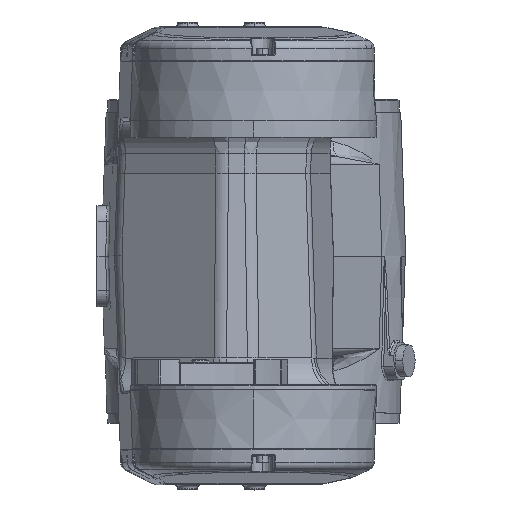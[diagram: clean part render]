
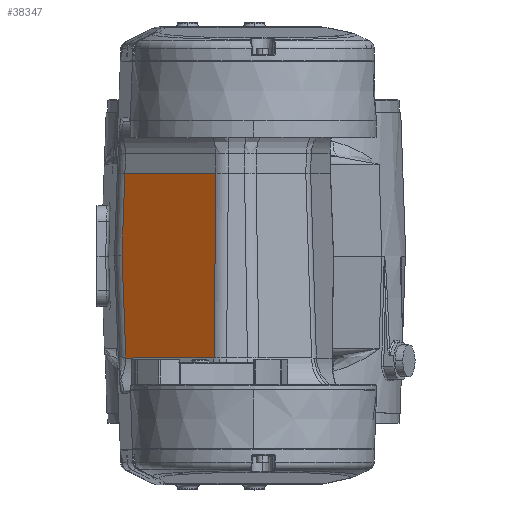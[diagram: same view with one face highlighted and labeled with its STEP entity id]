
A CAD part, top view. The second image highlights one B-rep face of the part: STEP entity #38347.
In plain terms, the highlighted planar face has unit normal (-0.592, 0.035, 0.805).
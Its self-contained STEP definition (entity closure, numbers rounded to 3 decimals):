
#3437 = VECTOR ( 'NONE', #24925, 1000. ) ;
#3449 = ORIENTED_EDGE ( 'NONE', *, *, #22573, .F. ) ;
#3644 = VERTEX_POINT ( 'NONE', #52259 ) ;
#3995 = VERTEX_POINT ( 'NONE', #14991 ) ;
#6156 = FACE_OUTER_BOUND ( 'NONE', #31680, .T. ) ;
#6337 = CARTESIAN_POINT ( 'NONE',  ( -28.084, 0.384, 786.034 ) ) ;
#7073 = DIRECTION ( 'NONE',  ( -0.037, 0.997, -0.071 ) ) ;
#7166 = ORIENTED_EDGE ( 'NONE', *, *, #24168, .F. ) ;
#8759 = CARTESIAN_POINT ( 'NONE',  ( 26.587, -60.698, 828.867 ) ) ;
#12692 = ORIENTED_EDGE ( 'NONE', *, *, #17108, .F. ) ;
#14991 = CARTESIAN_POINT ( 'NONE',  ( 27.702, 49., 824.932 ) ) ;
#15969 = VERTEX_POINT ( 'NONE', #8759 ) ;
#17108 = EDGE_CURVE ( 'NONE', #3644, #3995, #29261, .T. ) ;
#18484 = VECTOR ( 'NONE', #43294, 1000. ) ;
#19661 = CARTESIAN_POINT ( 'NONE',  ( -28.084, 0.384, 786.034 ) ) ;
#20023 = CARTESIAN_POINT ( 'NONE',  ( 30.516, 0., 829.124 ) ) ;
#20335 = CARTESIAN_POINT ( 'NONE',  ( 31.529, 49., 827.745 ) ) ;
#22573 = EDGE_CURVE ( 'NONE', #3995, #15969, #43904, .T. ) ;
#22852 = VECTOR ( 'NONE', #7073, 1000. ) ;
#23355 = VERTEX_POINT ( 'NONE', #19661 ) ;
#24168 = EDGE_CURVE ( 'NONE', #15969, #54474, #37514, .T. ) ;
#24925 = DIRECTION ( 'NONE',  ( 0.806, 0., 0.592 ) ) ;
#25442 = ORIENTED_EDGE ( 'NONE', *, *, #33547, .F. ) ;
#25836 = CARTESIAN_POINT ( 'NONE',  ( -27.98, -2.394, 786.231 ) ) ;
#27059 = LINE ( 'NONE', #25836, #22852 ) ;
#29261 = LINE ( 'NONE', #20335, #3437 ) ;
#29551 = DIRECTION ( 'NONE',  ( 0.592, -0.035, -0.805 ) ) ;
#30509 = ORIENTED_EDGE ( 'NONE', *, *, #31271, .F. ) ;
#31271 = EDGE_CURVE ( 'NONE', #23355, #3644, #32631, .T. ) ;
#31680 = EDGE_LOOP ( 'NONE', ( #25442, #7166, #3449, #12692, #30509 ) ) ;
#31706 = CARTESIAN_POINT ( 'NONE',  ( 29.261, -60.698, 830.832 ) ) ;
#32631 = B_SPLINE_CURVE_WITH_KNOTS ( 'NONE', 3,
 ( #6337, #38651, #34962, #57372 ),
 .UNSPECIFIED., .F., .F.,
 ( 4, 4 ),
 ( 0., 1. ),
 .UNSPECIFIED. ) ;
#33547 = EDGE_CURVE ( 'NONE', #54474, #23355, #27059, .T. ) ;
#34962 = CARTESIAN_POINT ( 'NONE',  ( -26.962, 32.795, 785.454 ) ) ;
#37514 = LINE ( 'NONE', #31706, #42088 ) ;
#38347 = ADVANCED_FACE ( 'NONE', ( #6156 ), #42486, .F. ) ;
#38651 = CARTESIAN_POINT ( 'NONE',  ( -27.523, 16.589, 785.744 ) ) ;
#38790 = DIRECTION ( 'NONE',  ( -0.806, 0., -0.592 ) ) ;
#42088 = VECTOR ( 'NONE', #45852, 1000. ) ;
#42486 = PLANE ( 'NONE',  #57574 ) ;
#43294 = DIRECTION ( 'NONE',  ( -0.01, -0.999, 0.036 ) ) ;
#43904 = LINE ( 'NONE', #53086, #18484 ) ;
#45852 = DIRECTION ( 'NONE',  ( -0.806, 0., -0.592 ) ) ;
#50867 = CARTESIAN_POINT ( 'NONE',  ( -25.802, -60.698, 790.358 ) ) ;
#52259 = CARTESIAN_POINT ( 'NONE',  ( -26.401, 49., 785.164 ) ) ;
#53086 = CARTESIAN_POINT ( 'NONE',  ( 27.702, 49., 824.932 ) ) ;
#54474 = VERTEX_POINT ( 'NONE', #50867 ) ;
#57372 = CARTESIAN_POINT ( 'NONE',  ( -26.401, 49., 785.164 ) ) ;
#57574 = AXIS2_PLACEMENT_3D ( 'NONE', #20023, #29551, #38790 ) ;
